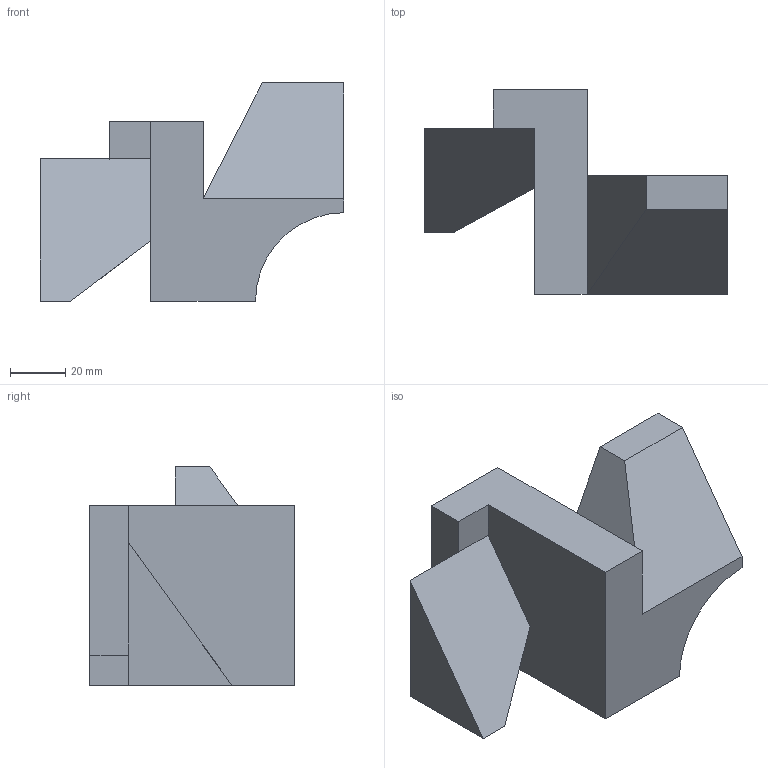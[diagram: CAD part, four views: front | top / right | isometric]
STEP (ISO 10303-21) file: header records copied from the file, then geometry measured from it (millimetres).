
FILE_DESCRIPTION(/* description */ (''),/* implementation_level */ '2;1');
FILE_NAME(/* name */ '740806R1005.step',/* time_stamp */ '2024-08-09T10:52:06+09:00',/* author */ (''),/* organization */ (''),/* preprocessor_version */ 'ST-DEVELOPER v20',/* originating_system */ 'Autodesk Translation Framework v13.14.0.145',/* authorisation */ '');
FILE_SCHEMA (('AUTOMOTIVE_DESIGN { 1 0 10303 214 3 1 1 }'));
Length unit declared in the file: millimetre
Products named in the file (1): 740806R1005
Bounding box: 110 x 74 x 79 mm (x, y, z)
Volume: 225838 mm3; surface area: 32360.7 mm2
Topology: 1 solids, 1 shells, 19 faces, 49 edges, 32 vertices
Faces by surface type: plane 18, cylinder 1
Entity records: 602 total; most frequent: CARTESIAN_POINT 101, ORIENTED_EDGE 98, DIRECTION 91, EDGE_CURVE 49, LINE 47, VECTOR 47, VERTEX_POINT 32, AXIS2_PLACEMENT_3D 22
